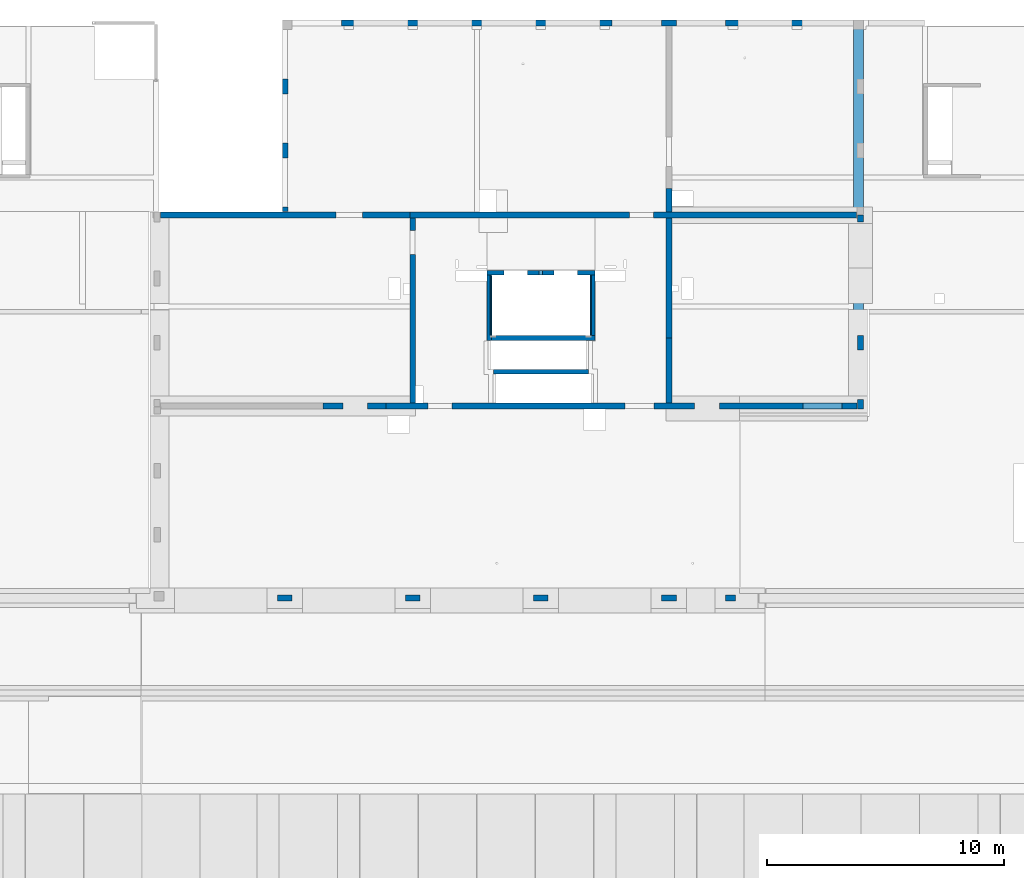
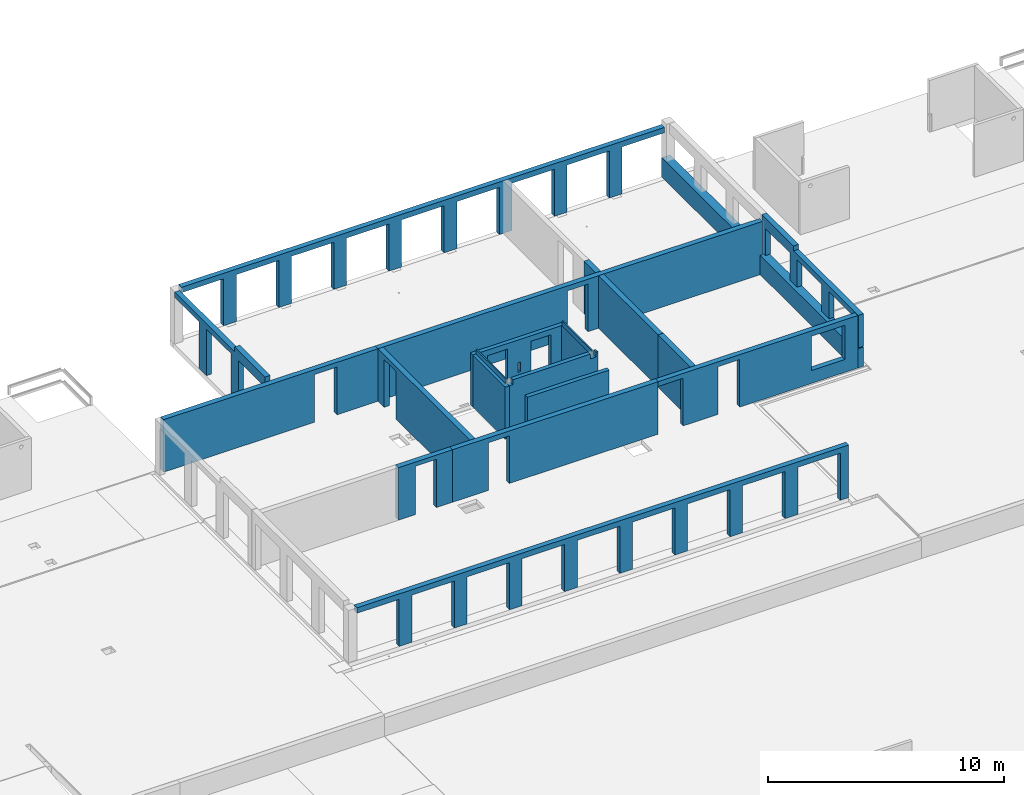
# One storey, part 19 of 36: 21 walls, 40 openings.
"""IFC2X3 building model written with IfcOpenShell, lengths in millimetres."""

from ifc_helpers import new_model, entity, si_unit, converted_unit, derived_unit, direction, frame, frame_2d, origin, origin_2d_with_axis, place, context, subcontext, project, spatial, polyline, rectangle, extrude, clip, bounded_halfspace, material, layer, layer_set, layer_usage, type_object, element, save


model = new_model("IFC2X3")

# Units and contexts
model_context = context("Model", 3, precision=0.01, world=origin(), true_north=direction((6.12303176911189e-17, 1.0)))
body_context = subcontext(model_context, "Body", "Model", "MODEL_VIEW")
ifc_project = project(units=[si_unit("LENGTHUNIT", "METRE", prefix="MILLI"), si_unit("AREAUNIT", "SQUARE_METRE"), si_unit("VOLUMEUNIT", "CUBIC_METRE"), converted_unit("PLANEANGLEUNIT", "DEGREE", entity("IfcRatioMeasure", 0.0174532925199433), si_unit("PLANEANGLEUNIT", "RADIAN"), dimensions=[0, 0, 0, 0, 0, 0, 0]), si_unit("MASSUNIT", "GRAM", prefix="KILO"), derived_unit("MASSDENSITYUNIT", [(si_unit("MASSUNIT", "GRAM", prefix="KILO"), 1), (si_unit("LENGTHUNIT", "METRE"), -3)]), si_unit("TIMEUNIT", "SECOND"), si_unit("FREQUENCYUNIT", "HERTZ"), si_unit("THERMODYNAMICTEMPERATUREUNIT", "DEGREE_CELSIUS"), derived_unit("THERMALTRANSMITTANCEUNIT", [(si_unit("MASSUNIT", "GRAM", prefix="KILO"), 1), (si_unit("THERMODYNAMICTEMPERATUREUNIT", "KELVIN"), -1), (si_unit("TIMEUNIT", "SECOND"), -3)]), derived_unit("VOLUMETRICFLOWRATEUNIT", [(si_unit("LENGTHUNIT", "METRE"), 3), (si_unit("TIMEUNIT", "SECOND"), -1)]), si_unit("ELECTRICCURRENTUNIT", "AMPERE"), si_unit("ELECTRICVOLTAGEUNIT", "VOLT"), si_unit("POWERUNIT", "WATT"), si_unit("FORCEUNIT", "NEWTON", prefix="KILO"), si_unit("ILLUMINANCEUNIT", "LUX"), si_unit("LUMINOUSFLUXUNIT", "LUMEN"), si_unit("LUMINOUSINTENSITYUNIT", "CANDELA"), derived_unit("USERDEFINED", [(si_unit("MASSUNIT", "GRAM", prefix="KILO"), -1), (si_unit("LENGTHUNIT", "METRE"), -2), (si_unit("TIMEUNIT", "SECOND"), 3), (si_unit("LUMINOUSFLUXUNIT", "LUMEN"), 1)]), derived_unit("LINEARVELOCITYUNIT", [(si_unit("LENGTHUNIT", "METRE"), 1), (si_unit("TIMEUNIT", "SECOND"), -1)]), si_unit("PRESSUREUNIT", "PASCAL"), derived_unit("USERDEFINED", [(si_unit("LENGTHUNIT", "METRE"), -2), (si_unit("MASSUNIT", "GRAM", prefix="KILO"), 1), (si_unit("TIMEUNIT", "SECOND"), -2)])], contexts=[model_context])

# Site, building, storey
site_placement = place(None, origin())
site = spatial("IfcSite", under=ifc_project, at=site_placement, Name="Default", CompositionType="ELEMENT")
building_placement = place(site_placement, origin())
building = spatial("IfcBuilding", under=site, at=building_placement, Name="niet gebruiken", CompositionType="ELEMENT")
storey_placement = place(building_placement, frame((0.0, 0.0, 12600.0)))
storey = spatial("IfcBuildingStorey", under=building, at=storey_placement, Name="04 vierde verdieping", CompositionType="ELEMENT", Elevation=12600.0)

# Wall, opening
ifc_material_1 = material(Name="NLRS_f2_beton ihwg")
ifc_layer_1 = layer(ifc_material_1, 250.0)
ifc_layer_set_1 = layer_set([ifc_layer_1], Name="Basic Wall:NLRS_22.21_WA_beton ihwg d=250_gen")
ifc_layer_usage_1 = layer_usage(ifc_layer_set_1, "AXIS2", "NEGATIVE", 125.0)
wall_type_1 = type_object("IfcWallType", Name="Basic Wall:NLRS_22.21_WA_beton ihwg d=250_gen", PredefinedType="STANDARD", material=ifc_layer_set_1)
wall_1_placement = place(storey_placement, frame((27170.0, 45031.0, -90.0)))
wall_1 = element("IfcWallStandardCase", 1, at=wall_1_placement, inside=storey, type_object=wall_type_1, material=ifc_layer_usage_1, Name="Basic Wall:NLRS_22.21_WA_beton ihwg d=250_gen", ObjectType="Basic Wall:NLRS_22.21_WA_beton ihwg d=250_gen", context=body_context, shape_type="SweptSolid", body=[
    extrude(rectangle(XDim=10505.0, YDim=249.999999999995, at=frame_2d((5252.5, 0.0), x_axis=(-1.0, 0.0))), origin(), (0.0, 0.0, 1.0), 2719.99999999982),
])
opening_1_placement = place(wall_1_placement, origin())
element("IfcOpeningElement", 2, at=opening_1_placement, cuts=wall_1, Name="Basic Wall:NLRS_22.21_WA_beton ihwg d=250_gen", ObjectType="Opening", context=body_context, shape_type="SweptSolid", body=[
    extrude(rectangle(XDim=2470.0, YDim=1100.0, at=origin_2d_with_axis()), frame((7955.0, -1649.0, 1235.0), z_axis=(0.0, 1.0, 0.0), x_axis=(0.0, 0.0, 1.0)), (0.0, 0.0, 1.0), 3048.0),
])

ifc_layer_usage_2 = layer_usage(ifc_layer_set_1, "AXIS2", "NEGATIVE", 125.0)
wall_2_placement = place(storey_placement, frame((37800.0, 44906.0, -90.0), z_axis=(0.0, 0.0, 1.0), x_axis=(0.0, -1.0, 0.0)))
wall_2 = element("IfcWallStandardCase", 3, at=wall_2_placement, inside=storey, type_object=wall_type_1, material=ifc_layer_usage_2, Name="Basic Wall:NLRS_22.21_WA_beton ihwg d=250_gen", ObjectType="Basic Wall:NLRS_22.21_WA_beton ihwg d=250_gen", context=body_context, shape_type="SweptSolid", body=[
    extrude(rectangle(XDim=7799.99999999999, YDim=250.000000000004, at=frame_2d((3900.0, 0.0), x_axis=(-1.0, 0.0))), origin(), (0.0, 0.0, 1.0), 2719.99999999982),
])
opening_2_placement = place(wall_2_placement, origin())
element("IfcOpeningElement", 4, at=opening_2_placement, cuts=wall_2, Name="Basic Wall:NLRS_22.21_WA_beton ihwg d=250_gen", ObjectType="Opening", context=body_context, shape_type="SweptSolid", body=[
    extrude(rectangle(XDim=2470.0, YDim=1006.0, at=origin_2d_with_axis()), frame((1027.0, -1649.0, 1235.0), z_axis=(0.0, 1.0, 0.0), x_axis=(0.0, 0.0, 1.0)), (0.0, 0.0, 1.0), 3048.0),
])

# Wall
ifc_layer_usage_3 = layer_usage(ifc_layer_set_1, "AXIS2", "NEGATIVE", 125.0)
wall_3_placement = place(storey_placement, frame((48600.0, 44906.0, -90.0), z_axis=(0.0, 0.0, 1.0), x_axis=(0.0, -1.0, 0.0)))
element("IfcWallStandardCase", 5, at=wall_3_placement, inside=storey, type_object=wall_type_1, material=ifc_layer_usage_3, Name="Basic Wall:NLRS_22.21_WA_beton ihwg d=250_gen", ObjectType="Basic Wall:NLRS_22.21_WA_beton ihwg d=250_gen", context=body_context, shape_type="SweptSolid", body=[
    extrude(rectangle(XDim=5050.0, YDim=249.999999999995, at=frame_2d((2525.0, 1.27897692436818e-12), x_axis=(-1.0, 0.0))), origin(), (0.0, 0.0, 1.0), 2719.99999999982),
])

# Wall, openings
ifc_layer_usage_4 = layer_usage(ifc_layer_set_1, "AXIS2", "NEGATIVE", 125.0)
wall_4_placement = place(storey_placement, frame((37675.0, 45031.0, -90.0)))
wall_4 = element("IfcWallStandardCase", 6, at=wall_4_placement, inside=storey, type_object=wall_type_1, material=ifc_layer_usage_4, Name="Basic Wall:NLRS_22.21_WA_beton ihwg d=250_gen", ObjectType="Basic Wall:NLRS_22.21_WA_beton ihwg d=250_gen", context=body_context, shape_type="SweptSolid", body=[
    extrude(rectangle(XDim=18835.0, YDim=249.999999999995, at=frame_2d((9417.50000000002, 0.0), x_axis=(-1.0, 0.0))), origin(), (0.0, 0.0, 1.0), 2719.99999999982),
])
opening_3_placement = place(wall_4_placement, origin())
element("IfcOpeningElement", 7, at=opening_3_placement, cuts=wall_4, Name="Basic Wall:NLRS_22.21_WA_beton ihwg d=250_gen", ObjectType="Opening", context=body_context, shape_type="SweptSolid", body=[
    extrude(rectangle(XDim=2470.0, YDim=1006.0, at=origin_2d_with_axis()), frame((9773.0, -1649.0, 1235.0), z_axis=(0.0, 1.0, 0.0), x_axis=(0.0, 0.0, 1.0)), (0.0, 0.0, 1.0), 3048.0),
])
opening_4_placement = place(wall_4_placement, origin())
element("IfcOpeningElement", 8, at=opening_4_placement, cuts=wall_4, Name="Basic Wall:NLRS_22.21_WA_beton ihwg d=250_gen", ObjectType="Opening", context=body_context, shape_type="SweptSolid", body=[
    extrude(rectangle(XDim=1000.00000000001, YDim=119.999999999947, at=frame_2d((4.33075797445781e-12, 1.08002495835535e-12), x_axis=(0.0, 1.0))), frame((18775.0, 125.0, 500.0), z_axis=(0.0, -1.0, 0.0), x_axis=(1.0, 0.0, 0.0)), (0.0, 0.0, 1.0), 250.0),
])

# Wall, opening
ifc_layer_usage_5 = layer_usage(ifc_layer_set_1, "AXIS2", "NEGATIVE", 125.0)
wall_5_placement = place(storey_placement, frame((34025.0, 36981.0, -90.0)))
wall_5 = element("IfcWallStandardCase", 9, at=wall_5_placement, inside=storey, type_object=wall_type_1, material=ifc_layer_usage_5, Name="Basic Wall:NLRS_22.21_WA_beton ihwg d=250_gen", ObjectType="Basic Wall:NLRS_22.21_WA_beton ihwg d=250_gen", context=body_context, shape_type="SweptSolid", body=[
    extrude(rectangle(XDim=2650.0, YDim=250.000000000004, at=frame_2d((1325.0, 0.0), x_axis=(-1.0, 0.0))), origin(), (0.0, 0.0, 1.0), 2719.99999999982),
])
opening_5_placement = place(wall_5_placement, origin())
element("IfcOpeningElement", 10, at=opening_5_placement, cuts=wall_5, Name="Basic Wall:NLRS_22.21_WA_beton ihwg d=250_gen", ObjectType="Opening", context=body_context, shape_type="SweptSolid", body=[
    extrude(rectangle(XDim=2502.0, YDim=1022.0, at=frame_2d((2.1600499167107e-12, 0.0), x_axis=(0.0, 1.0))), frame((1350.0, -1399.0, 1251.0), z_axis=(0.0, 1.0, 0.0), x_axis=(-1.0, 0.0, 0.0)), (0.0, 0.0, 1.0), 3048.0),
])

ifc_layer_usage_6 = layer_usage(ifc_layer_set_1, "AXIS2", "NEGATIVE", 125.0)
wall_6_placement = place(storey_placement, frame((36675.0, 36981.0, -90.0)))
wall_6 = element("IfcWallStandardCase", 11, at=wall_6_placement, inside=storey, type_object=wall_type_1, material=ifc_layer_usage_6, Name="Basic Wall:NLRS_22.21_WA_beton ihwg d=250_gen", ObjectType="Basic Wall:NLRS_22.21_WA_beton ihwg d=250_gen", context=body_context, shape_type="SweptSolid", body=[
    extrude(rectangle(XDim=10075.0000000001, YDim=250.000000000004, at=frame_2d((5037.50000000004, 0.0), x_axis=(-1.0, 0.0))), origin(), (0.0, 0.0, 1.0), 2719.99999999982),
])
opening_6_placement = place(wall_6_placement, origin())
element("IfcOpeningElement", 12, at=opening_6_placement, cuts=wall_6, Name="Basic Wall:NLRS_22.21_WA_beton ihwg d=250_gen", ObjectType="Opening", context=body_context, shape_type="SweptSolid", body=[
    extrude(rectangle(XDim=2470.0, YDim=1006.0, at=frame_2d((2.1600499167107e-12, 0.0), x_axis=(0.0, 1.0))), frame((2277.0, -1399.0, 1235.0), z_axis=(0.0, 1.0, 0.0), x_axis=(-1.0, 0.0, 0.0)), (0.0, 0.0, 1.0), 3048.0),
])

# Wall, openings
ifc_layer_usage_7 = layer_usage(ifc_layer_set_1, "AXIS2", "NEGATIVE", 125.0)
wall_7_placement = place(storey_placement, frame((46750.0, 36981.0, -90.0)))
wall_7 = element("IfcWallStandardCase", 13, at=wall_7_placement, inside=storey, type_object=wall_type_1, material=ifc_layer_usage_7, Name="Basic Wall:NLRS_22.21_WA_beton ihwg d=250_gen", ObjectType="Basic Wall:NLRS_22.21_WA_beton ihwg d=250_gen", context=body_context, shape_type="SweptSolid", body=[
    extrude(rectangle(XDim=9780.0, YDim=250.000000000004, at=frame_2d((4890.0, 0.0), x_axis=(-1.0, 0.0))), origin(), (0.0, 0.0, 1.0), 2719.99999999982),
])
opening_7_placement = place(wall_7_placement, origin())
element("IfcOpeningElement", 14, at=opening_7_placement, cuts=wall_7, Name="Basic Wall:NLRS_22.21_WA_beton ihwg d=250_gen", ObjectType="Opening", context=body_context, shape_type="SweptSolid", body=[
    extrude(rectangle(XDim=2470.0, YDim=1054.0, at=frame_2d((0.0, 0.0), x_axis=(0.0, 1.0))), frame((3465.0, -1399.0, 1235.0), z_axis=(0.0, 1.0, 0.0), x_axis=(-1.0, 0.0, 0.0)), (0.0, 0.0, 1.0), 3048.0),
])
opening_8_placement = place(wall_7_placement, origin())
element("IfcOpeningElement", 15, at=opening_8_placement, cuts=wall_7, Name="Basic Wall:NLRS_22.21_WA_beton ihwg d=250_gen", ObjectType="Opening", context=body_context, shape_type="SweptSolid", body=[
    extrude(rectangle(XDim=2470.0, YDim=1225.0, at=frame_2d((0.0, 0.0), x_axis=(0.0, 1.0))), frame((612.500000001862, -1399.0, 1235.0), z_axis=(0.0, 1.0, 0.0), x_axis=(-1.0, 0.0, 0.0)), (0.0, 0.0, 1.0), 3048.0),
])
opening_9_placement = place(wall_7_placement, origin())
element("IfcOpeningElement", 16, at=opening_9_placement, cuts=wall_7, Name="Basic Wall:NLRS_22.21_WA_beton ihwg d=250_gen", ObjectType="Opening", context=body_context, shape_type="SweptSolid", body=[
    extrude(rectangle(XDim=1775.0, YDim=1640.0, at=frame_2d((4.37694325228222e-12, -1.08002495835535e-12), x_axis=(0.0, 1.0))), frame((8320.0, -1399.0, 1552.50000000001), z_axis=(0.0, 1.0, 0.0), x_axis=(-1.0, 0.0, 0.0)), (0.0, 0.0, 1.0), 3048.0),
])

# Walls
ifc_layer_usage_8 = layer_usage(ifc_layer_set_1, "AXIS2", "NEGATIVE", 125.0)
wall_8_placement = place(storey_placement, frame((48600.0, 46156.0, -90.0), z_axis=(0.0, 0.0, 1.0), x_axis=(0.0, -1.0, 0.0)))
element("IfcWallStandardCase", 17, at=wall_8_placement, inside=storey, type_object=wall_type_1, material=ifc_layer_usage_8, Name="Basic Wall:NLRS_22.21_WA_beton ihwg d=250_gen", ObjectType="Basic Wall:NLRS_22.21_WA_beton ihwg d=250_gen", context=body_context, shape_type="SweptSolid", body=[
    extrude(rectangle(XDim=999.999999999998, YDim=249.999999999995, at=frame_2d((499.999999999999, 1.10134124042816e-12), x_axis=(-1.0, 0.0))), origin(), (0.0, 0.0, 1.0), 2719.99999999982),
])
ifc_layer_usage_9 = layer_usage(ifc_layer_set_1, "AXIS2", "NEGATIVE", 125.0)
wall_9_placement = place(storey_placement, frame((48600.0, 39856.0, -90.0), z_axis=(0.0, 0.0, 1.0), x_axis=(0.0, -1.0, 0.0)))
element("IfcWallStandardCase", 18, at=wall_9_placement, inside=storey, type_object=wall_type_1, material=ifc_layer_usage_9, Name="Basic Wall:NLRS_22.21_WA_beton ihwg d=250_gen", ObjectType="Basic Wall:NLRS_22.21_WA_beton ihwg d=250_gen", context=body_context, shape_type="SweptSolid", body=[
    extrude(rectangle(XDim=2749.99999999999, YDim=249.999999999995, at=frame_2d((1375.0, -1.27897692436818e-12), x_axis=(-1.0, 0.0))), origin(), (0.0, 0.0, 1.0), 2719.99999999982),
])

# Wall, openings
ifc_material_2 = material(Name="NLRS_f2_beton prefab")
ifc_layer_2 = layer(ifc_material_2, 250.0)
ifc_layer_set_2 = layer_set([ifc_layer_2], Name="Basic Wall:NLRS_21.21_WA_beton prefab d=250_gen")
ifc_layer_usage_10 = layer_usage(ifc_layer_set_2, "AXIS2", "NEGATIVE", 125.0)
wall_type_2 = type_object("IfcWallType", Name="Basic Wall:NLRS_21.21_WA_beton prefab d=250_gen", PredefinedType="STANDARD", material=ifc_layer_set_2)
wall_10_placement = place(storey_placement, frame((32425.0, 52846.0, -60.0), z_axis=(0.0, 0.0, 1.0), x_axis=(0.0, -1.0, 0.0)))
wall_10 = element("IfcWallStandardCase", 19, at=wall_10_placement, inside=storey, type_object=wall_type_2, material=ifc_layer_usage_10, Name="Basic Wall:NLRS_21.21_WA_beton prefab d=250_gen", ObjectType="Basic Wall:NLRS_21.21_WA_beton prefab d=250_gen", context=body_context, shape_type="SweptSolid", body=[
    extrude(rectangle(XDim=7670.00000000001, YDim=250.000000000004, at=frame_2d((3835.0, 0.0), x_axis=(-1.0, 0.0))), origin(), (0.0, 0.0, 1.0), 2940.0),
])
opening_10_placement = place(wall_10_placement, origin())
element("IfcOpeningElement", 20, at=opening_10_placement, cuts=wall_10, Name="Basic Wall:NLRS_21.21_WA_beton prefab d=250_gen", ObjectType="Opening", context=body_context, shape_type="SweptSolid", body=[
    extrude(rectangle(XDim=2420.0, YDim=2080.0, at=frame_2d((0.0, 1.02318153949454e-12), x_axis=(0.0, 1.0))), frame((6440.0, -1399.0, 1200.0), z_axis=(0.0, 1.0, 0.0), x_axis=(-1.0, 0.0, 0.0)), (0.0, 0.0, 1.0), 3048.0),
])
opening_11_placement = place(wall_10_placement, origin())
element("IfcOpeningElement", 21, at=opening_11_placement, cuts=wall_10, Name="Basic Wall:NLRS_21.21_WA_beton prefab d=250_gen", ObjectType="Opening", context=body_context, shape_type="SweptSolid", body=[
    extrude(rectangle(XDim=2420.0, YDim=2080.0, at=frame_2d((0.0, 1.02318153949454e-12), x_axis=(0.0, 1.0))), frame((3740.0, -1399.0, 1200.0), z_axis=(0.0, 1.0, 0.0), x_axis=(-1.0, 0.0, 0.0)), (0.0, 0.0, 1.0), 3048.0),
])
opening_12_placement = place(wall_10_placement, origin())
element("IfcOpeningElement", 22, at=opening_12_placement, cuts=wall_10, Name="Basic Wall:NLRS_21.21_WA_beton prefab d=250_gen", ObjectType="Opening", context=body_context, shape_type="SweptSolid", body=[
    extrude(rectangle(XDim=2420.0, YDim=2080.0, at=frame_2d((8.64019966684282e-12, 1.02318153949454e-12), x_axis=(0.0, 1.0))), frame((1040.0, -1399.0, 1200.0), z_axis=(0.0, 1.0, 0.0), x_axis=(-1.0, 0.0, 0.0)), (0.0, 0.0, 1.0), 3048.0),
])
opening_13_placement = place(wall_10_placement, origin())
element("IfcOpeningElement", 23, at=opening_13_placement, cuts=wall_10, Name="Basic Wall:NLRS_21.21_WA_beton prefab d=250_gen", ObjectType="Opening", context=body_context, shape_type="SweptSolid", body=[
    extrude(rectangle(XDim=250.000000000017, YDim=5089.99999999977, at=frame_2d((4.32009983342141e-12, 0.0), x_axis=(0.0, 1.0))), frame((2545.0, 125.0, 2815.0), z_axis=(0.0, -1.0, 0.0), x_axis=(-1.0, 0.0, 0.0)), (0.0, 0.0, 1.0), 250.0),
])

ifc_layer_usage_11 = layer_usage(ifc_layer_set_2, "AXIS2", "NEGATIVE", 125.0)
wall_11_placement = place(storey_placement, frame((56675.0, 45046.0, 940.0), z_axis=(0.0, 0.0, 1.0), x_axis=(0.0, -1.0, 0.0)))
wall_11 = element("IfcWallStandardCase", 24, at=wall_11_placement, inside=storey, type_object=wall_type_2, material=ifc_layer_usage_11, Name="Basic Wall:NLRS_21.21_WA_beton prefab d=250_gen", ObjectType="Basic Wall:NLRS_21.21_WA_beton prefab d=250_gen", context=body_context, shape_type="SweptSolid", body=[
    extrude(rectangle(XDim=8189.99999999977, YDim=249.999999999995, at=frame_2d((4094.99999999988, 0.0), x_axis=(-1.0, 0.0))), origin(), (0.0, 0.0, 1.0), 1940.0),
])
opening_14_placement = place(wall_11_placement, origin())
element("IfcOpeningElement", 25, at=opening_14_placement, cuts=wall_11, Name="Basic Wall:NLRS_21.21_WA_beton prefab d=250_gen", ObjectType="Opening", context=body_context, shape_type="SweptSolid", body=[
    extrude(rectangle(XDim=1420.0, YDim=2080.0, at=frame_2d((0.0, 0.0), x_axis=(0.0, 1.0))), frame((1340.0, -1399.0, 700.0), z_axis=(0.0, 1.0, 0.0), x_axis=(-1.0, 0.0, 0.0)), (0.0, 0.0, 1.0), 3048.0),
])
opening_15_placement = place(wall_11_placement, origin())
element("IfcOpeningElement", 26, at=opening_15_placement, cuts=wall_11, Name="Basic Wall:NLRS_21.21_WA_beton prefab d=250_gen", ObjectType="Opening", context=body_context, shape_type="SweptSolid", body=[
    extrude(rectangle(XDim=1420.0, YDim=2080.0, at=frame_2d((0.0, 0.0), x_axis=(0.0, 1.0))), frame((4040.0, -1399.0, 700.0), z_axis=(0.0, 1.0, 0.0), x_axis=(-1.0, 0.0, 0.0)), (0.0, 0.0, 1.0), 3048.0),
])
opening_16_placement = place(wall_11_placement, origin())
element("IfcOpeningElement", 27, at=opening_16_placement, cuts=wall_11, Name="Basic Wall:NLRS_21.21_WA_beton prefab d=250_gen", ObjectType="Opening", context=body_context, shape_type="SweptSolid", body=[
    extrude(rectangle(XDim=1420.0, YDim=2080.0, at=frame_2d((0.0, 0.0), x_axis=(0.0, 1.0))), frame((6740.0, -1399.0, 700.0), z_axis=(0.0, 1.0, 0.0), x_axis=(-1.0, 0.0, 0.0)), (0.0, 0.0, 1.0), 3048.0),
])
opening_17_placement = place(wall_11_placement, origin())
element("IfcOpeningElement", 28, at=opening_17_placement, cuts=wall_11, Name="Basic Wall:NLRS_21.21_WA_beton prefab d=250_gen", ObjectType="Opening", context=body_context, shape_type="SweptSolid", body=[
    extrude(rectangle(XDim=250.000000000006, YDim=5500.0000000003, at=frame_2d((1.08002495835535e-12, -4.32009983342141e-12), x_axis=(1.0, 0.0))), frame((5440.0, 125.0, 1815.0), z_axis=(0.0, -1.0, 0.0), x_axis=(0.0, 0.0, 1.0)), (0.0, 0.0, 1.0), 250.0),
])

# Wall
ifc_layer_3 = layer(ifc_material_2, 200.0)
ifc_layer_set_3 = layer_set([ifc_layer_3], Name="Basic Wall:NLRS_21.21_WA_beton prefab d=200_gen")
ifc_layer_usage_12 = layer_usage(ifc_layer_set_3, "AXIS2", "NEGATIVE", 100.0)
wall_type_3 = type_object("IfcWallType", Name="Basic Wall:NLRS_21.21_WA_beton prefab d=200_gen", PredefinedType="STANDARD", material=ifc_layer_set_3)
wall_12_placement = place(storey_placement, frame((41200.0, 38426.0, -70.0)))
element("IfcWallStandardCase", 29, at=wall_12_placement, inside=storey, type_object=wall_type_3, material=ifc_layer_usage_12, Name="Basic Wall:NLRS_21.21_WA_beton prefab d=200_gen", ObjectType="Basic Wall:NLRS_21.21_WA_beton prefab d=200_gen", context=body_context, shape_type="SweptSolid", body=[
    extrude(rectangle(XDim=3999.99999999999, YDim=199.999999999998, at=frame_2d((2000.0, 0.0), x_axis=(-1.0, 0.0))), origin(), (0.0, 0.0, 1.0), 2950.00000000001),
])

# Wall, openings
ifc_layer_4 = layer(ifc_material_2, 200.0)
ifc_layer_set_4 = layer_set([ifc_layer_4], Name="Basic Wall:NLRS_22.21_WA_beton prefab d=200_gen")
ifc_layer_usage_13 = layer_usage(ifc_layer_set_4, "AXIS2", "NEGATIVE", 100.0)
wall_type_4 = type_object("IfcWallType", Name="Basic Wall:NLRS_22.21_WA_beton prefab d=200_gen", PredefinedType="STANDARD", material=ifc_layer_set_4)
wall_13_placement = place(storey_placement, frame((40925.0, 42596.0, -70.0)))
wall_13 = element("IfcWallStandardCase", 30, at=wall_13_placement, inside=storey, type_object=wall_type_4, material=ifc_layer_usage_13, Name="Basic Wall:NLRS_22.21_WA_beton prefab d=200_gen", ObjectType="Basic Wall:NLRS_22.21_WA_beton prefab d=200_gen", context=body_context, shape_type="SweptSolid", body=[
    extrude(rectangle(XDim=4549.99999999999, YDim=200.000000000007, at=frame_2d((2274.99999999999, 7.8159700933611e-13), x_axis=(-1.0, 0.0))), origin(), (0.0, 0.0, 1.0), 2699.99999999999),
])
opening_18_placement = place(wall_13_placement, origin())
element("IfcOpeningElement", 31, at=opening_18_placement, cuts=wall_13, Name="Basic Wall:NLRS_22.21_WA_beton prefab d=200_gen", ObjectType="Opening", context=body_context, shape_type="SweptSolid", body=[
    extrude(rectangle(XDim=2430.0, YDim=980.000000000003, at=origin_2d_with_axis()), frame((1219.99984910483, -1624.0, 1195.0), z_axis=(0.0, 1.0, 0.0), x_axis=(0.0, 0.0, 1.0)), (0.0, 0.0, 1.0), 3048.0),
])
opening_19_placement = place(wall_13_placement, origin())
element("IfcOpeningElement", 32, at=opening_19_placement, cuts=wall_13, Name="Basic Wall:NLRS_22.21_WA_beton prefab d=200_gen", ObjectType="Opening", context=body_context, shape_type="SweptSolid", body=[
    extrude(rectangle(XDim=2430.0, YDim=980.000000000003, at=origin_2d_with_axis()), frame((3329.99984910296, -1624.0, 1195.0), z_axis=(0.0, 1.0, 0.0), x_axis=(0.0, 0.0, 1.0)), (0.0, 0.0, 1.0), 3048.0),
])
opening_20_placement = place(wall_13_placement, origin())
element("IfcOpeningElement", 33, at=opening_20_placement, cuts=wall_13, Name="Basic Wall:NLRS_22.21_WA_beton prefab d=200_gen", ObjectType="Opening", context=body_context, shape_type="SweptSolid", body=[
    extrude(rectangle(XDim=505.000000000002, YDim=135.000000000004, at=origin_2d_with_axis()), frame((2275.0, -1624.0, 1272.5), z_axis=(0.0, 1.0, 0.0), x_axis=(0.0, 0.0, 1.0)), (0.0, 0.0, 1.0), 3048.0),
])

# Wall
ifc_layer_usage_14 = layer_usage(ifc_layer_set_4, "AXIS2", "NEGATIVE", 100.0)
wall_14_placement = place(storey_placement, frame((41025.0, 42496.0, -70.0), z_axis=(0.0, 0.0, 1.0), x_axis=(0.0, -1.0, 0.0)))
element("IfcWallStandardCase", 34, at=wall_14_placement, inside=storey, type_object=wall_type_4, material=ifc_layer_usage_14, Name="Basic Wall:NLRS_22.21_WA_beton prefab d=200_gen", ObjectType="Basic Wall:NLRS_22.21_WA_beton prefab d=200_gen", context=body_context, shape_type="SweptSolid", body=[
    extrude(rectangle(XDim=2749.99999999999, YDim=200.000000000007, at=frame_2d((1375.0, 0.0), x_axis=(-1.0, 0.0))), origin(), (0.0, 0.0, 1.0), 2699.99999999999),
])

# Wall, openings
ifc_layer_usage_15 = layer_usage(ifc_layer_set_4, "AXIS2", "NEGATIVE", 100.0)
wall_15_placement = place(storey_placement, frame((45475.0, 39846.0, -70.0), z_axis=(0.0, 0.0, 1.0), x_axis=(-1.0, 0.0, 0.0)))
wall_15 = element("IfcWallStandardCase", 35, at=wall_15_placement, inside=storey, type_object=wall_type_4, material=ifc_layer_usage_15, Name="Basic Wall:NLRS_22.21_WA_beton prefab d=200_gen", ObjectType="Basic Wall:NLRS_22.21_WA_beton prefab d=200_gen", context=body_context, shape_type="SweptSolid", body=[
    extrude(rectangle(XDim=4349.99999999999, YDim=200.000000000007, at=frame_2d((2174.99999999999, 0.0), x_axis=(-1.0, 0.0))), origin(), (0.0, 0.0, 1.0), 2950.0),
])
opening_21_placement = place(wall_15_placement, origin())
element("IfcOpeningElement", 36, at=opening_21_placement, cuts=wall_15, Name="Basic Wall:NLRS_22.21_WA_beton prefab d=200_gen", ObjectType="Opening", context=body_context, shape_type="SweptSolid", body=[
    extrude(rectangle(XDim=250.000000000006, YDim=274.9999671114, at=frame_2d((1.08002495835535e-12, -4.33431068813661e-12), x_axis=(1.0, 0.0))), frame((4312.50001644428, 100.0, 2825.0), z_axis=(0.0, -1.0, 0.0), x_axis=(0.0, 0.0, 1.0)), (0.0, 0.0, 1.0), 200.0),
])
opening_22_placement = place(wall_15_placement, origin())
element("IfcOpeningElement", 37, at=opening_22_placement, cuts=wall_15, Name="Basic Wall:NLRS_22.21_WA_beton prefab d=200_gen", ObjectType="Opening", context=body_context, shape_type="SweptSolid", body=[
    extrude(rectangle(XDim=250.000000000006, YDim=275.000032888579, at=frame_2d((-4.32009983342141e-12, -1.08002495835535e-12), x_axis=(0.0, 1.0))), frame((237.500016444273, 100.0, 2825.0), z_axis=(0.0, -1.0, 0.0), x_axis=(-1.0, 0.0, 0.0)), (0.0, 0.0, 1.0), 200.0),
])

# Wall
ifc_layer_usage_16 = layer_usage(ifc_layer_set_4, "AXIS2", "NEGATIVE", 100.0)
wall_16_placement = place(storey_placement, frame((45375.0, 39946.0, -70.0), z_axis=(0.0, 0.0, 1.0), x_axis=(0.0, 1.0, 0.0)))
element("IfcWallStandardCase", 38, at=wall_16_placement, inside=storey, type_object=wall_type_4, material=ifc_layer_usage_16, Name="Basic Wall:NLRS_22.21_WA_beton prefab d=200_gen", ObjectType="Basic Wall:NLRS_22.21_WA_beton prefab d=200_gen", context=body_context, shape_type="SweptSolid", body=[
    extrude(rectangle(XDim=2549.99999999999, YDim=200.000000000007, at=frame_2d((1275.0, 0.0), x_axis=(-1.0, 0.0))), origin(), (0.0, 0.0, 1.0), 2699.99999999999),
])

# Wall, openings
ifc_layer_5 = layer(ifc_material_1, 250.0)
ifc_layer_set_5 = layer_set([ifc_layer_5], Name="Basic Wall:NLRS_21.21_WA_beton ihwg d=250_gen")
ifc_layer_usage_17 = layer_usage(ifc_layer_set_5, "AXIS2", "NEGATIVE", 125.0)
wall_type_5 = type_object("IfcWallType", Name="Basic Wall:NLRS_21.21_WA_beton ihwg d=250_gen", PredefinedType="STANDARD", material=ifc_layer_set_5)
wall_17_placement = place(storey_placement, frame((27330.0, 28881.0, -90.0)))
wall_17 = element("IfcWallStandardCase", 39, at=wall_17_placement, inside=storey, type_object=wall_type_5, material=ifc_layer_usage_17, Name="Basic Wall:NLRS_21.21_WA_beton ihwg d=250_gen", ObjectType="Basic Wall:NLRS_21.21_WA_beton ihwg d=250_gen", context=body_context, shape_type="SweptSolid", body=[
    extrude(rectangle(XDim=24070.0, YDim=250.000000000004, at=frame_2d((12035.0, 8.10018718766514e-13), x_axis=(-1.0, 0.0))), origin(), (0.0, 0.0, 1.0), 2720.0),
])
opening_23_placement = place(wall_17_placement, origin())
element("IfcOpeningElement", 40, at=opening_23_placement, cuts=wall_17, Name="Basic Wall:NLRS_21.21_WA_beton ihwg d=250_gen", ObjectType="Opening", context=body_context, shape_type="SweptSolid", body=[
    extrude(rectangle(XDim=2440.0, YDim=2080.0, at=frame_2d((0.0, 1.13686837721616e-12), x_axis=(0.0, 1.0))), frame((22620.0, -1399.0, 1220.0), z_axis=(0.0, 1.0, 0.0), x_axis=(-1.0, 0.0, 0.0)), (0.0, 0.0, 1.0), 3048.0),
])
opening_24_placement = place(wall_17_placement, origin())
element("IfcOpeningElement", 41, at=opening_24_placement, cuts=wall_17, Name="Basic Wall:NLRS_21.21_WA_beton ihwg d=250_gen", ObjectType="Opening", context=body_context, shape_type="SweptSolid", body=[
    extrude(rectangle(XDim=2440.0, YDim=2080.0, at=frame_2d((0.0, -1.13686837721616e-12), x_axis=(0.0, 1.0))), frame((19920.0, -1399.0, 1220.0), z_axis=(0.0, 1.0, 0.0), x_axis=(-1.0, 0.0, 0.0)), (0.0, 0.0, 1.0), 3048.0),
])
opening_25_placement = place(wall_17_placement, origin())
element("IfcOpeningElement", 42, at=opening_25_placement, cuts=wall_17, Name="Basic Wall:NLRS_21.21_WA_beton ihwg d=250_gen", ObjectType="Opening", context=body_context, shape_type="SweptSolid", body=[
    extrude(rectangle(XDim=2440.0, YDim=2080.0, at=frame_2d((0.0, 1.13686837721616e-12), x_axis=(0.0, 1.0))), frame((17220.0, -1399.0, 1220.0), z_axis=(0.0, 1.0, 0.0), x_axis=(-1.0, 0.0, 0.0)), (0.0, 0.0, 1.0), 3048.0),
])
opening_26_placement = place(wall_17_placement, origin())
element("IfcOpeningElement", 43, at=opening_26_placement, cuts=wall_17, Name="Basic Wall:NLRS_21.21_WA_beton ihwg d=250_gen", ObjectType="Opening", context=body_context, shape_type="SweptSolid", body=[
    extrude(rectangle(XDim=2440.0, YDim=2080.0, at=frame_2d((0.0, -1.13686837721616e-12), x_axis=(0.0, 1.0))), frame((14520.0, -1399.0, 1220.0), z_axis=(0.0, 1.0, 0.0), x_axis=(-1.0, 0.0, 0.0)), (0.0, 0.0, 1.0), 3048.0),
])
opening_27_placement = place(wall_17_placement, origin())
element("IfcOpeningElement", 44, at=opening_27_placement, cuts=wall_17, Name="Basic Wall:NLRS_21.21_WA_beton ihwg d=250_gen", ObjectType="Opening", context=body_context, shape_type="SweptSolid", body=[
    extrude(rectangle(XDim=2440.0, YDim=2080.0, at=frame_2d((-4.32009983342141e-12, 1.13686837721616e-12), x_axis=(0.0, 1.0))), frame((11820.0, -1399.0, 1220.0), z_axis=(0.0, 1.0, 0.0), x_axis=(-1.0, 0.0, 0.0)), (0.0, 0.0, 1.0), 3048.0),
])
opening_28_placement = place(wall_17_placement, origin())
element("IfcOpeningElement", 45, at=opening_28_placement, cuts=wall_17, Name="Basic Wall:NLRS_21.21_WA_beton ihwg d=250_gen", ObjectType="Opening", context=body_context, shape_type="SweptSolid", body=[
    extrude(rectangle(XDim=2440.0, YDim=2080.0, at=frame_2d((-2.1600499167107e-12, -1.13686837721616e-12), x_axis=(0.0, 1.0))), frame((9120.0, -1399.0, 1220.0), z_axis=(0.0, 1.0, 0.0), x_axis=(-1.0, 0.0, 0.0)), (0.0, 0.0, 1.0), 3048.0),
])
opening_29_placement = place(wall_17_placement, origin())
element("IfcOpeningElement", 46, at=opening_29_placement, cuts=wall_17, Name="Basic Wall:NLRS_21.21_WA_beton ihwg d=250_gen", ObjectType="Opening", context=body_context, shape_type="SweptSolid", body=[
    extrude(rectangle(XDim=2440.0, YDim=2080.0, at=frame_2d((2.1600499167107e-12, 1.13686837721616e-12), x_axis=(0.0, 1.0))), frame((6420.0, -1399.0, 1220.0), z_axis=(0.0, 1.0, 0.0), x_axis=(-1.0, 0.0, 0.0)), (0.0, 0.0, 1.0), 3048.0),
])
opening_30_placement = place(wall_17_placement, origin())
element("IfcOpeningElement", 47, at=opening_30_placement, cuts=wall_17, Name="Basic Wall:NLRS_21.21_WA_beton ihwg d=250_gen", ObjectType="Opening", context=body_context, shape_type="SweptSolid", body=[
    extrude(rectangle(XDim=2440.0, YDim=2080.0, at=frame_2d((2.1600499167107e-12, -1.13686837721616e-12), x_axis=(0.0, 1.0))), frame((3720.0, -1399.0, 1220.0), z_axis=(0.0, 1.0, 0.0), x_axis=(-1.0, 0.0, 0.0)), (0.0, 0.0, 1.0), 3048.0),
])
opening_31_placement = place(wall_17_placement, origin())
element("IfcOpeningElement", 48, at=opening_31_placement, cuts=wall_17, Name="Basic Wall:NLRS_21.21_WA_beton ihwg d=250_gen", ObjectType="Opening", context=body_context, shape_type="SweptSolid", body=[
    extrude(rectangle(XDim=2440.0, YDim=2080.0, at=frame_2d((-2.1600499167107e-12, 1.13686837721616e-12), x_axis=(0.0, 1.0))), frame((1020.0, -1399.0, 1220.0), z_axis=(0.0, 1.0, 0.0), x_axis=(-1.0, 0.0, 0.0)), (0.0, 0.0, 1.0), 3048.0),
])

ifc_layer_usage_18 = layer_usage(ifc_layer_set_5, "AXIS2", "NEGATIVE", 125.0)
wall_18_placement = place(storey_placement, frame((56390.0, 53131.0, -90.0), z_axis=(0.0, 0.0, 1.0), x_axis=(-1.0, 0.0, 0.0)))
wall_18 = element("IfcWallStandardCase", 49, at=wall_18_placement, inside=storey, type_object=wall_type_5, material=ifc_layer_usage_18, Name="Basic Wall:NLRS_21.21_WA_beton ihwg d=250_gen", ObjectType="Basic Wall:NLRS_21.21_WA_beton ihwg d=250_gen", context=body_context, shape_type="SweptSolid", body=[
    extrude(rectangle(XDim=23660.0000000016, YDim=249.999999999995, at=frame_2d((11830.0000000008, -1.91846538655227e-13), x_axis=(-1.0, 0.0))), origin(), (0.0, 0.0, 1.0), 2720.0),
])
opening_32_placement = place(wall_18_placement, origin())
element("IfcOpeningElement", 50, at=opening_32_placement, cuts=wall_18, Name="Basic Wall:NLRS_21.21_WA_beton ihwg d=250_gen", ObjectType="Opening", context=body_context, shape_type="SweptSolid", body=[
    extrude(rectangle(XDim=2440.0, YDim=2080.0, at=frame_2d((2.1600499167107e-12, 1.13686837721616e-12), x_axis=(0.0, 1.0))), frame((22640.0, -1399.0, 1220.0), z_axis=(0.0, 1.0, 0.0), x_axis=(-1.0, 0.0, 0.0)), (0.0, 0.0, 1.0), 3048.0),
])
opening_33_placement = place(wall_18_placement, origin())
element("IfcOpeningElement", 51, at=opening_33_placement, cuts=wall_18, Name="Basic Wall:NLRS_21.21_WA_beton ihwg d=250_gen", ObjectType="Opening", context=body_context, shape_type="SweptSolid", body=[
    extrude(rectangle(XDim=2440.0, YDim=2080.0, at=frame_2d((2.1600499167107e-12, -1.13686837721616e-12), x_axis=(0.0, 1.0))), frame((19940.0, -1399.0, 1220.0), z_axis=(0.0, 1.0, 0.0), x_axis=(-1.0, 0.0, 0.0)), (0.0, 0.0, 1.0), 3048.0),
])
opening_34_placement = place(wall_18_placement, origin())
element("IfcOpeningElement", 52, at=opening_34_placement, cuts=wall_18, Name="Basic Wall:NLRS_21.21_WA_beton ihwg d=250_gen", ObjectType="Opening", context=body_context, shape_type="SweptSolid", body=[
    extrude(rectangle(XDim=2440.0, YDim=2079.99999999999, at=frame_2d((2.1600499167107e-12, 1.13686837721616e-12), x_axis=(0.0, 1.0))), frame((17240.0, -1399.0, 1220.0), z_axis=(0.0, 1.0, 0.0), x_axis=(-1.0, 0.0, 0.0)), (0.0, 0.0, 1.0), 3048.0),
])
opening_35_placement = place(wall_18_placement, origin())
element("IfcOpeningElement", 53, at=opening_35_placement, cuts=wall_18, Name="Basic Wall:NLRS_21.21_WA_beton ihwg d=250_gen", ObjectType="Opening", context=body_context, shape_type="SweptSolid", body=[
    extrude(rectangle(XDim=2440.0, YDim=2080.0, at=frame_2d((0.0, -1.13686837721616e-12), x_axis=(0.0, 1.0))), frame((14540.0, -1399.0, 1220.0), z_axis=(0.0, 1.0, 0.0), x_axis=(-1.0, 0.0, 0.0)), (0.0, 0.0, 1.0), 3048.0),
])
opening_36_placement = place(wall_18_placement, origin())
element("IfcOpeningElement", 54, at=opening_36_placement, cuts=wall_18, Name="Basic Wall:NLRS_21.21_WA_beton ihwg d=250_gen", ObjectType="Opening", context=body_context, shape_type="SweptSolid", body=[
    extrude(rectangle(XDim=2440.0, YDim=2080.0, at=frame_2d((0.0, 1.13686837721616e-12), x_axis=(0.0, 1.0))), frame((11840.0, -1399.0, 1220.0), z_axis=(0.0, 1.0, 0.0), x_axis=(-1.0, 0.0, 0.0)), (0.0, 0.0, 1.0), 3048.0),
])
opening_37_placement = place(wall_18_placement, origin())
element("IfcOpeningElement", 55, at=opening_37_placement, cuts=wall_18, Name="Basic Wall:NLRS_21.21_WA_beton ihwg d=250_gen", ObjectType="Opening", context=body_context, shape_type="SweptSolid", body=[
    extrude(rectangle(XDim=2440.0, YDim=2080.0, at=frame_2d((0.0, -1.13686837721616e-12), x_axis=(0.0, 1.0))), frame((9140.0, -1399.0, 1220.0), z_axis=(0.0, 1.0, 0.0), x_axis=(-1.0, 0.0, 0.0)), (0.0, 0.0, 1.0), 3048.0),
])
opening_38_placement = place(wall_18_placement, origin())
element("IfcOpeningElement", 56, at=opening_38_placement, cuts=wall_18, Name="Basic Wall:NLRS_21.21_WA_beton ihwg d=250_gen", ObjectType="Opening", context=body_context, shape_type="SweptSolid", body=[
    extrude(rectangle(XDim=2440.0, YDim=2080.0, at=frame_2d((0.0, 1.13686837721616e-12), x_axis=(0.0, 1.0))), frame((6440.0, -1399.0, 1220.0), z_axis=(0.0, 1.0, 0.0), x_axis=(-1.0, 0.0, 0.0)), (0.0, 0.0, 1.0), 3048.0),
])
opening_39_placement = place(wall_18_placement, origin())
element("IfcOpeningElement", 57, at=opening_39_placement, cuts=wall_18, Name="Basic Wall:NLRS_21.21_WA_beton ihwg d=250_gen", ObjectType="Opening", context=body_context, shape_type="SweptSolid", body=[
    extrude(rectangle(XDim=2440.0, YDim=2080.0, at=frame_2d((0.0, -1.13686837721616e-12), x_axis=(0.0, 1.0))), frame((3740.0, -1399.0, 1220.0), z_axis=(0.0, 1.0, 0.0), x_axis=(-1.0, 0.0, 0.0)), (0.0, 0.0, 1.0), 3048.0),
])
opening_40_placement = place(wall_18_placement, origin())
element("IfcOpeningElement", 58, at=opening_40_placement, cuts=wall_18, Name="Basic Wall:NLRS_21.21_WA_beton ihwg d=250_gen", ObjectType="Opening", context=body_context, shape_type="SweptSolid", body=[
    extrude(rectangle(XDim=2440.0, YDim=2080.0, at=frame_2d((-8.64019966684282e-12, 1.13686837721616e-12), x_axis=(0.0, 1.0))), frame((1040.0, -1399.0, 1220.0), z_axis=(0.0, 1.0, 0.0), x_axis=(-1.0, 0.0, 0.0)), (0.0, 0.0, 1.0), 3048.0),
])

# Walls
ifc_layer_6 = layer(ifc_material_1, 410.0)
ifc_layer_set_6 = layer_set([ifc_layer_6], Name="Basic Wall:NLRS_21.21_WA_beton ihwg d=410_gen")
ifc_layer_usage_19 = layer_usage(ifc_layer_set_6, "AXIS2", "NEGATIVE", 205.0)
wall_type_6 = type_object("IfcWallType", Name="Basic Wall:NLRS_21.21_WA_beton ihwg d=410_gen", PredefinedType="STANDARD", material=ifc_layer_set_6)
wall_19_placement = place(storey_placement, frame((56595.0, 36856.0, -90.0), z_axis=(0.0, 0.0, 1.0), x_axis=(0.0, 1.0, 0.0)))
element("IfcWallStandardCase", 59, at=wall_19_placement, inside=storey, type_object=wall_type_6, material=ifc_layer_usage_19, Name="Basic Wall:NLRS_21.21_WA_beton ihwg d=410_gen", ObjectType="Basic Wall:NLRS_21.21_WA_beton ihwg d=410_gen", context=body_context, shape_type="Clipping", body=[
    clip(clip(extrude(rectangle(XDim=16400.0000000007, YDim=409.999999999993, at=frame_2d((8200.00000000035, 0.0), x_axis=(-1.0, 0.0))), origin(), (0.0, 0.0, 1.0), 1000.00000000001), bounded_halfspace(frame((250.0, 65.0, 0.0), z_axis=(1.0, 0.0, 0.0), x_axis=(0.0, 1.0, 0.0)), True, frame((250.0, 65.0, 0.0), z_axis=(1.0, 0.0, 0.0), x_axis=(0.0, 1.0, 0.0)), polyline([(0.0, 0.0), (140.0, 0.0), (140.0, 1000.0), (0.0, 1000.0), (0.0, 0.0)]))), bounded_halfspace(frame((250.0, 65.0, 1000.0), z_axis=(0.0, -1.0, 0.0), x_axis=(1.0, 0.0, 0.0)), True, frame((250.0, 65.0, 1000.0), z_axis=(0.0, -1.0, 0.0), x_axis=(1.0, 0.0, 0.0)), polyline([(0.0, 0.0), (-250.0, 0.0), (-250.0, -1000.0), (0.0, -1000.0), (0.0, 0.0)]))),
])
ifc_layer_7 = layer(ifc_material_2, 60.0)
ifc_layer_set_7 = layer_set([ifc_layer_7], Name="Basic Wall:NLRS_22.21_WA_beton prefab d=60_gen")
ifc_layer_usage_20 = layer_usage(ifc_layer_set_7, "AXIS2", "NEGATIVE", 30.0)
wall_type_7 = type_object("IfcWallType", Name="Basic Wall:NLRS_22.21_WA_beton prefab d=60_gen", PredefinedType="STANDARD", material=ifc_layer_set_7)
wall_20_placement = place(storey_placement, frame((41095.0, 42475.99013359, 2630.0), z_axis=(0.0, 0.0, 1.0), x_axis=(0.0, -1.0, 0.0)))
element("IfcWallStandardCase", 60, at=wall_20_placement, inside=storey, type_object=wall_type_7, material=ifc_layer_usage_20, Name="Basic Wall:NLRS_22.21_WA_beton prefab d=60_gen", ObjectType="Basic Wall:NLRS_22.21_WA_beton prefab d=60_gen", context=body_context, shape_type="SweptSolid", body=[
    extrude(rectangle(XDim=2510.00000033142, YDim=60.0000000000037, at=frame_2d((1255.00000016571, 0.0), x_axis=(-1.0, 0.0))), origin(), (0.0, 0.0, 1.0), 250.000000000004),
])
ifc_layer_usage_21 = layer_usage(ifc_layer_set_7, "AXIS2", "POSITIVE", -30.0)
wall_21_placement = place(storey_placement, frame((45305.0, 42475.9914401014, 2630.0), z_axis=(0.0, 0.0, 1.0), x_axis=(0.0, -1.0, 0.0)))
element("IfcWallStandardCase", 61, at=wall_21_placement, inside=storey, type_object=wall_type_7, material=ifc_layer_usage_21, Name="Basic Wall:NLRS_22.21_WA_beton prefab d=60_gen", ObjectType="Basic Wall:NLRS_22.21_WA_beton prefab d=60_gen", context=body_context, shape_type="SweptSolid", body=[
    extrude(rectangle(XDim=2510.00000001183, YDim=60.0000000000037, at=frame_2d((1255.00000000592, 0.0), x_axis=(-1.0, 0.0))), origin(), (0.0, 0.0, 1.0), 250.000000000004),
])

save(model, "model.ifc")
